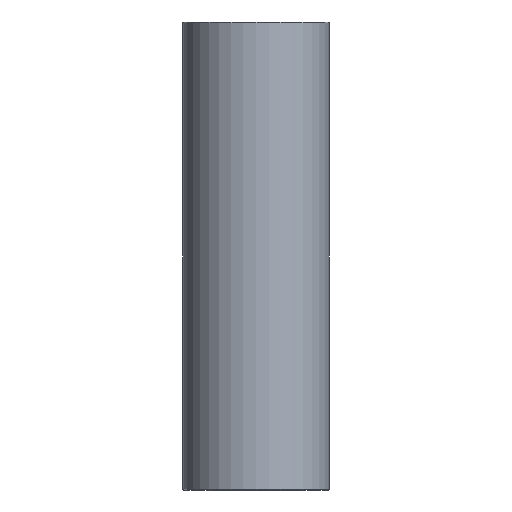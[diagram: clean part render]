
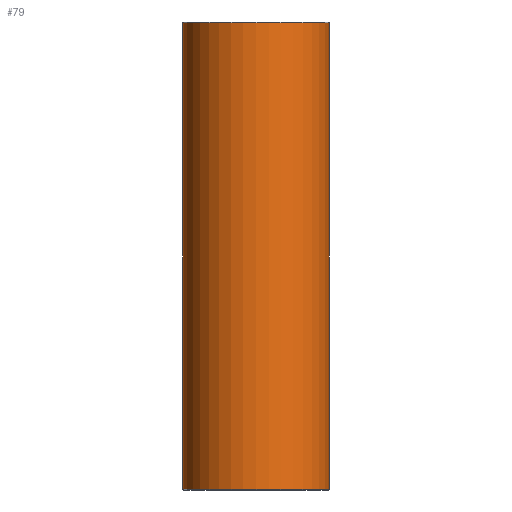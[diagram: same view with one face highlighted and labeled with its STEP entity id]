
A CAD part, front view. The second image highlights one B-rep face of the part: STEP entity #79.
In plain terms, the highlighted cylindrical face has radius 25 mm (diameter 50 mm), a full revolution.
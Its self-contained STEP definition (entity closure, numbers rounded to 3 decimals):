
#79=ADVANCED_FACE('',(#96,#97),#98,.T.);
#96=FACE_OUTER_BOUND('',#120,.T.);
#97=FACE_OUTER_BOUND('',#121,.T.);
#98=CYLINDRICAL_SURFACE('',#122,25.0);
#120=EDGE_LOOP('',(#152));
#121=EDGE_LOOP('',(#153));
#122=AXIS2_PLACEMENT_3D('',#154,#155,#156);
#152=ORIENTED_EDGE('',*,*,#178,.T.);
#153=ORIENTED_EDGE('',*,*,#177,.T.);
#154=CARTESIAN_POINT('',(0.,0.0,160.0));
#155=DIRECTION('',(0.0,0.0,-1.0));
#156=DIRECTION('',(-1.0,0.0,0.0));
#177=EDGE_CURVE('',#190,#190,#191,.T.);
#178=EDGE_CURVE('',#192,#192,#193,.F.);
#190=VERTEX_POINT('',#206);
#191=CIRCLE('',#207,25.0);
#192=VERTEX_POINT('',#208);
#193=CIRCLE('',#209,25.0);
#206=CARTESIAN_POINT('',(25.0,0.0,0.2));
#207=AXIS2_PLACEMENT_3D('',#227,#228,#229);
#208=CARTESIAN_POINT('',(25.0,0.,159.8));
#209=AXIS2_PLACEMENT_3D('',#230,#231,#232);
#227=CARTESIAN_POINT('',(0.,0.0,0.2));
#228=DIRECTION('',(0.0,0.0,1.0));
#229=DIRECTION('',(1.0,0.0,0.0));
#230=CARTESIAN_POINT('',(0.,0.0,159.8));
#231=DIRECTION('',(0.0,0.0,1.0));
#232=DIRECTION('',(1.0,0.0,0.0));
